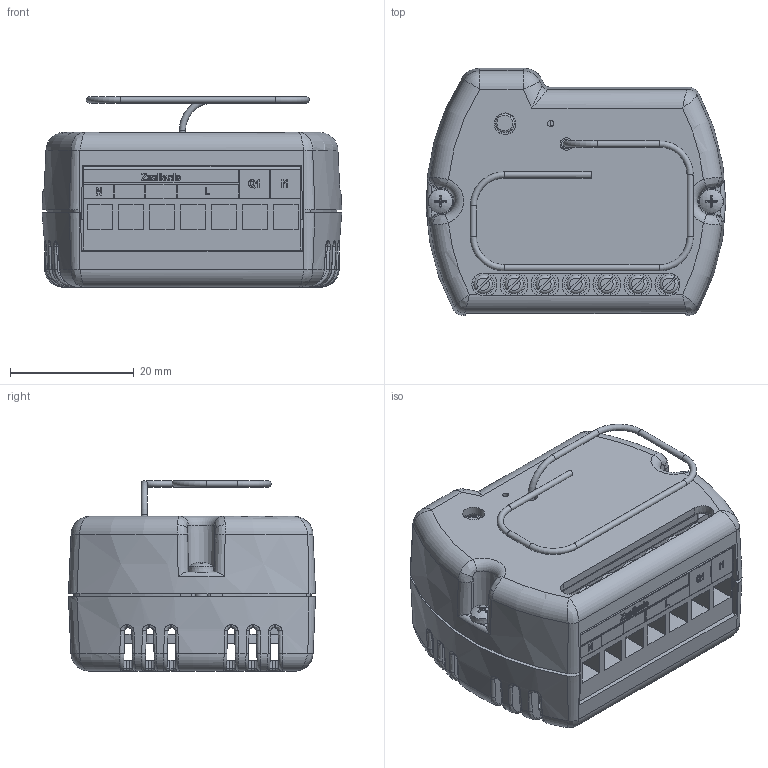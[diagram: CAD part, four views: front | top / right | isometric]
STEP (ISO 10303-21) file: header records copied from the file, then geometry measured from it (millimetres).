
FILE_DESCRIPTION(/* description */ (''),/* implementation_level */ '2;1');
FILE_NAME(/* name */ 'PPS-01 230.step',/* time_stamp */ '2026-02-06T11:35:19+01:00',/* author */ (''),/* organization */ (''),/* preprocessor_version */ 'ST-DEVELOPER v20.1',/* originating_system */ 'Autodesk Translation Framework v14.24.0.0',/* authorisation */ '');
FILE_SCHEMA (('AUTOMOTIVE_DESIGN { 1 0 10303 214 3 1 1 }'));
Products named in the file (134): Przekaźnik do puszki1; Plytka dolna1; Łaczka; SWITCH 6X6X3,2; Gora_cewka3; Spod_cewka3; ST-1011_2_1_E; PCB Component; Board; RFM22B_S1_D; Body3; Body4; Body5; Body6; Body7; Body8; Body9; Body10; Body11; Body12; Body13; Body14; Body15; Body16; Body17; Body18; Body19; Body20; Body21; Body22; Body23; Body24; Body25; Body26; Body27; Body28; Body29; Body30; Body31; Body32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
Assembly tree (148 placements, depth 5):
  Przekaźnik do puszki1
    Plytka dolna1
    Łaczka
    SWITCH 6X6X3,2
    Gora_cewka3
    Spod_cewka3
    ST-1011_2_1_E
      PCB Component
        Board
        100n  x4
        10k  x3
        RFM22B_S1_D
          Body3
          Body4
          Body5
          Body6
          Body7
          Body8
          Body9
          Body10
          Body11
          Body12
          Body13
          Body14
          Body15
          Body16
          Body17
          Body18
          Body19
          Body20
          Body21
          Body22
          Body23
          Body24
          Body25
          Body26
          Body27
          Body28
          Body29
          Body30
          Body31
          Body32
          Body33
          Body34
          Body35
          Body36
          Body37
          Body38
          Body39
          Body40
          Body41
          Body42
          Body43
          Body44
          Body45
          Body46
          Body47
          Body48
          Body49
          Body50
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Bounding box: 48.38 x 39.9 x 30.74 mm (x, y, z)
Volume: 18181.8 mm3; surface area: 23454.1 mm2
Topology: 154 solids, 155 shells, 4225 faces, 10360 edges, 6419 vertices
Faces by surface type: plane 2246, cylinder 1020, sphere 382, bspline 335, torus 121, cone 121
Full cylindrical faces by diameter (mm): 0.4 x4, 0.406 x11, 0.5 x74, 0.6 x1, 0.9 x6, 1 x17, 1.5 x1, 2.2 x2, 3.1 x1, 3.5 x1, 3.6 x7, 4.5 x7
Entity records: 133274 total; most frequent: CARTESIAN_POINT 32229, DIRECTION 20050, ORIENTED_EDGE 19954, EDGE_CURVE 9979, AXIS2_PLACEMENT_3D 6817, LINE 6416, VECTOR 6416, VERTEX_POINT 6243
